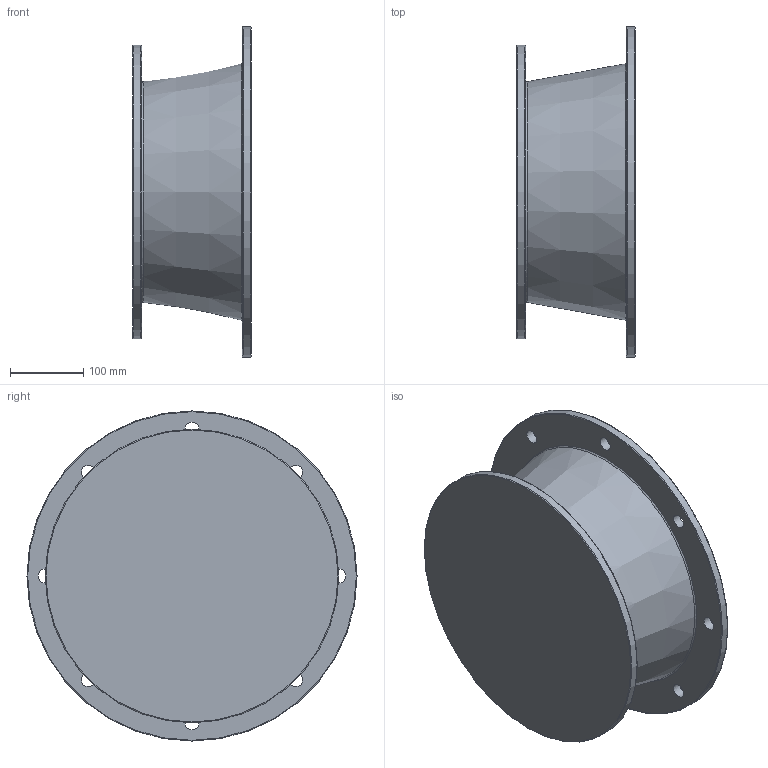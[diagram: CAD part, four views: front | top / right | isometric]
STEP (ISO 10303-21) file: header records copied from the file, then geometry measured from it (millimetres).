
FILE_DESCRIPTION((''),'2;1');
FILE_NAME('D:\PAWEŁ\ZLECENIA\2011 DualSystem\Przekładnie DR\DR130\STEP\225-S_B5_L161,5.stp','2012-06-11T12:42:18',('admin'),(''),'Autodesk Inventor 2009','Autodesk Inventor 2009','');
FILE_SCHEMA(('AUTOMOTIVE_DESIGN { 1 0 10303 214 1 1 1 1 }'));
Length unit declared in the file: millimetre
Products named in the file (1): 225-S_B5_L161,5
Bounding box: 161.5 x 450 x 450 mm (x, y, z)
Volume: 3617152.7 mm3; surface area: 767713.1 mm2
Topology: 1 solids, 1 shells, 34 faces, 70 edges, 44 vertices
Faces by surface type: plane 11, bspline 10, cylinder 6, torus 5, cone 2
Full cylindrical faces by diameter (mm): 90 x1, 337.803 x1, 350 x1, 400 x1, 450 x1
Entity records: 1083 total; most frequent: CARTESIAN_POINT 369, DIRECTION 136, ORIENTED_EDGE 96, EDGE_LOOP 78, AXIS2_PLACEMENT_3D 63, EDGE_CURVE 48, VERTEX_POINT 44, FACE_BOUND 44
